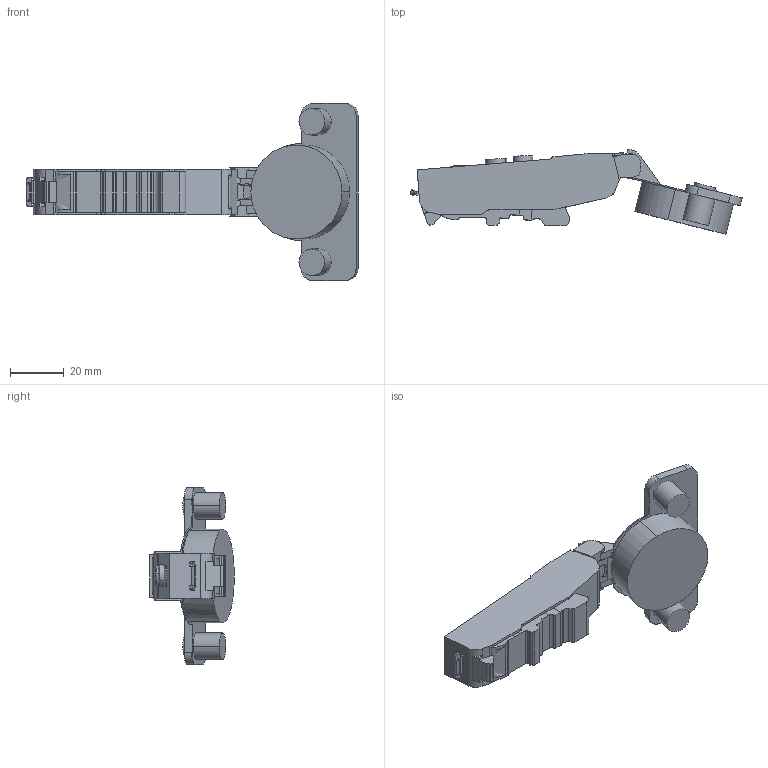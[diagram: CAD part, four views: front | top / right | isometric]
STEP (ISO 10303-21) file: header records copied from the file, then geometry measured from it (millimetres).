
FILE_DESCRIPTION (( 'STEP AP203' ), '1' );
FILE_NAME ('C81B877T0FAB DTC 3D OPEN.STEP', '2024-07-24T05:21:46', ( '微软用户' ), ( '微软中国' ), 'SwSTEP 2.0', 'SolidWorks 2021', '' );
FILE_SCHEMA (( 'CONFIG_CONTROL_DESIGN' ));
Length unit declared in the file: millimetre
Products named in the file (1): C81B877T0FAB DTC 3D OPEN
Bounding box: 122.99 x 31.32 x 65.6 mm (x, y, z)
Volume: 43523.7 mm3; surface area: 13197.2 mm2
Topology: 1 solids, 1 shells, 413 faces, 1165 edges, 759 vertices
Faces by surface type: cylinder 175, plane 167, torus 32, bspline 27, cone 8, sphere 4
Entity records: 14591 total; most frequent: CARTESIAN_POINT 4068, ORIENTED_EDGE 2330, DIRECTION 2075, EDGE_CURVE 1165, VERTEX_POINT 759, AXIS2_PLACEMENT_3D 741, LINE 593, VECTOR 593
